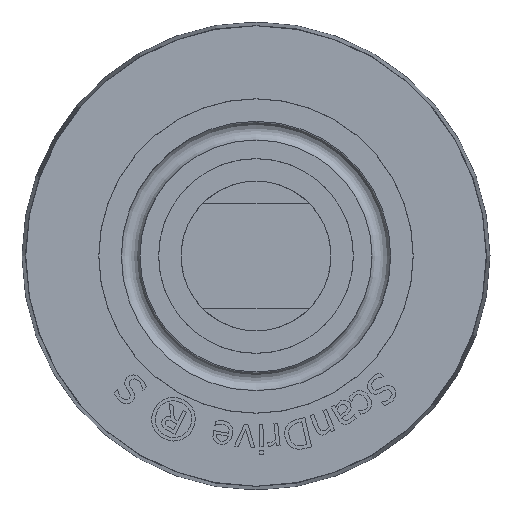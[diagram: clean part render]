
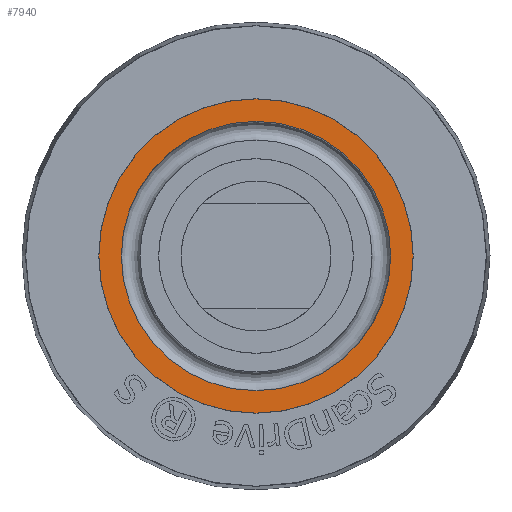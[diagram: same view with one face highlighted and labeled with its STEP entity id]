
A CAD part, left-side view. The second image highlights one B-rep face of the part: STEP entity #7940.
In plain terms, the highlighted planar face has unit normal (-1, 0, 0).
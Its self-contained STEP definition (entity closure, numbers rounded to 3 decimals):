
#60=CIRCLE('',#8324,17.99);
#61=CIRCLE('',#8326,20.99);
#151=FACE_BOUND('',#1490,.T.);
#1002=FACE_OUTER_BOUND('',#1489,.T.);
#1489=EDGE_LOOP('',(#6306));
#1490=EDGE_LOOP('',(#6307));
#3608=VERTEX_POINT('',#12298);
#3609=VERTEX_POINT('',#12301);
#4583=EDGE_CURVE('',#3608,#3608,#60,.T.);
#4584=EDGE_CURVE('',#3609,#3609,#61,.T.);
#6306=ORIENTED_EDGE('',*,*,#4584,.T.);
#6307=ORIENTED_EDGE('',*,*,#4583,.F.);
#7598=PLANE('',#8325);
#7940=ADVANCED_FACE('',(#1002,#151),#7598,.T.);
#8324=AXIS2_PLACEMENT_3D('',#12299,#9143,#9144);
#8325=AXIS2_PLACEMENT_3D('',#12300,#9145,#9146);
#8326=AXIS2_PLACEMENT_3D('',#12302,#9147,#9148);
#9143=DIRECTION('center_axis',(-1.,0.,0.));
#9144=DIRECTION('ref_axis',(0.,0.,1.));
#9145=DIRECTION('center_axis',(-1.,0.,0.));
#9146=DIRECTION('ref_axis',(0.,0.,1.));
#9147=DIRECTION('center_axis',(-1.,0.,0.));
#9148=DIRECTION('ref_axis',(0.,0.,1.));
#12298=CARTESIAN_POINT('',(-375.,0.,17.99));
#12299=CARTESIAN_POINT('Origin',(-375.,0.,0.));
#12300=CARTESIAN_POINT('Origin',(-375.,0.,17.99));
#12301=CARTESIAN_POINT('',(-375.,0.,20.99));
#12302=CARTESIAN_POINT('Origin',(-375.,0.,0.));
